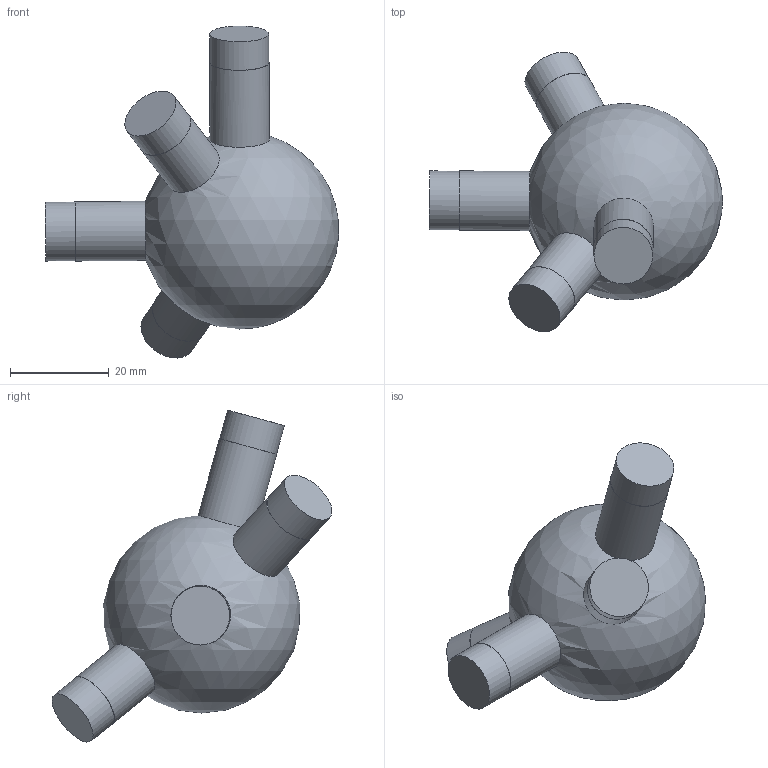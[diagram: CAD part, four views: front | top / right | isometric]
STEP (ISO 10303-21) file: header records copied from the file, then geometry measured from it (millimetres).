
FILE_DESCRIPTION(('Open CASCADE Model'),'2;1');
FILE_NAME('Open CASCADE Shape Model','2026-10-21T12:47:57',('Author'),( 'Open CASCADE'),'Open CASCADE STEP processor 7.9','Open CASCADE 7.9' ,'Unknown');
FILE_SCHEMA(('AUTOMOTIVE_DESIGN { 1 0 10303 214 1 1 1 1 }'));
Length unit declared in the file: millimetre
Products named in the file (1): Open CASCADE STEP translator 7.9 73
Bounding box: 59.31 x 56.64 x 67.17 mm (x, y, z)
Volume: 42018.9 mm3; surface area: 7929.5 mm2
Topology: 1 solids, 1 shells, 17 faces, 27 edges, 18 vertices
Faces by surface type: cylinder 8, plane 8, sphere 1
Full cylindrical faces by diameter (mm): 11.9 x4, 12 x4
Entity records: 1045 total; most frequent: CARTESIAN_POINT 427, DIRECTION 127, ORIENTED_EDGE 52, PCURVE 52, DEFINITIONAL_REPRESENTATION 52, LINE 43, VECTOR 43, AXIS2_PLACEMENT_3D 36
